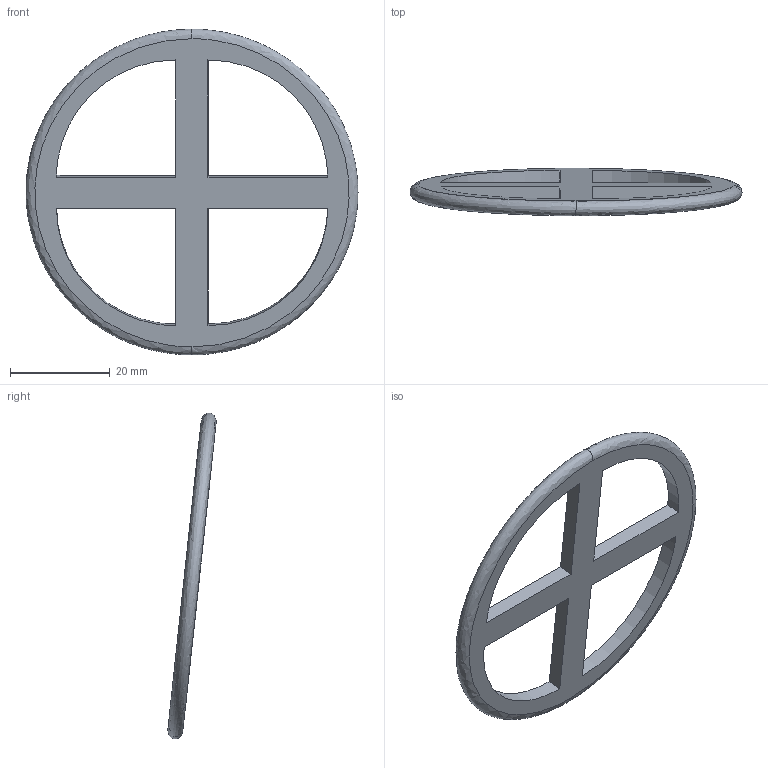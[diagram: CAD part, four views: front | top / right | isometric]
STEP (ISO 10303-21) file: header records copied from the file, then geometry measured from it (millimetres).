
FILE_DESCRIPTION(/* description */ (''),/* implementation_level */ '2;1');
FILE_NAME(/* name */ 'XL-MED~3',/* time_stamp */ '2020-04-10T21:50:38+03:00',/* author */ (''),/* organization */ (''),/* preprocessor_version */ 'ST-DEVELOPER v16.5',/* originating_system */ '',/* authorisation */ '');
FILE_SCHEMA (('AUTOMOTIVE_DESIGN'));
Length unit declared in the file: millimetre
Products named in the file (1): Document
Bounding box: 66.73 x 9.69 x 65.48 mm (x, y, z)
Volume: 4762.5 mm3; surface area: 4684.7 mm2
Topology: 1 solids, 1 shells, 18 faces, 46 edges, 30 vertices
Faces by surface type: plane 10, bspline 8
Entity records: 1332 total; most frequent: CARTESIAN_POINT 1006, ORIENTED_EDGE 92, EDGE_CURVE 46, VERTEX_POINT 30, EDGE_LOOP 26, B_SPLINE_CURVE_WITH_KNOTS 24, ADVANCED_FACE 18, FACE_OUTER_BOUND 18
